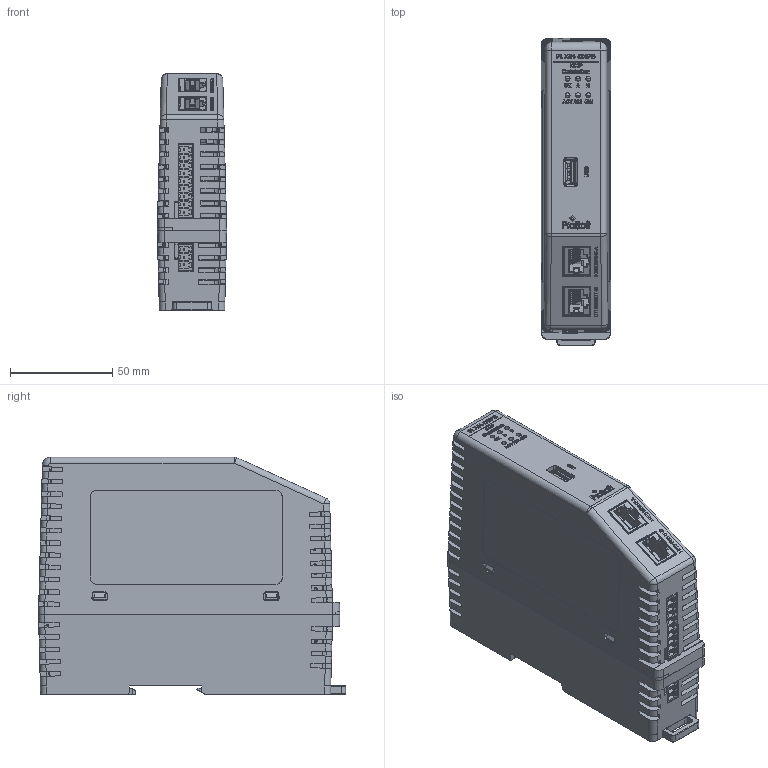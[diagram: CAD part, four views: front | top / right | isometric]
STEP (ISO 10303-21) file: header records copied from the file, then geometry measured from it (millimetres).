
FILE_DESCRIPTION (( 'STEP AP214' ), '1' );
FILE_NAME ('PLX51-DNPS.STEP', '2020-09-14T21:15:08', ( '' ), ( '' ), 'SwSTEP 2.0', 'SolidWorks 2020', '' );
FILE_SCHEMA (( 'AUTOMOTIVE_DESIGN' ));
Length unit declared in the file: millimetre
Products named in the file (16): DipSwitch; TriLED; PCD_LID_A_02_Rev4B_PLX51-DNPS; USB; M-UE27-AC54-100-REVG1-1; PCD_BASE_A_01; Socket9; Clip_PCD; Part1.SLDPRT; M-UE27-AC54-100-REVG1-4; Socket3a; JD1-0003NL1; M-UE27-AC54-100-REVG1-3; PCD_Dual_R02_Profibus_DP; M-UE27-AC54-100-REVG1-2; PLX51-DNPS
Assembly tree (17 placements, depth 3):
  PLX51-DNPS
    PCD_BASE_A_01
    PCD_LID_A_02_Rev4B_PLX51-DNPS
    PCD_Dual_R02_Profibus_DP
    TriLED  x2
    DipSwitch
    JD1-0003NL1  x2
    Socket3a
    Socket9
    Clip_PCD
    USB
      Part1.SLDPRT
      M-UE27-AC54-100-REVG1-1
      M-UE27-AC54-100-REVG1-2
      M-UE27-AC54-100-REVG1-3
      M-UE27-AC54-100-REVG1-4
Bounding box: 34.03 x 150.33 x 116.3 mm (x, y, z)
Volume: 141909.6 mm3; surface area: 146686.2 mm2
Topology: 14 solids, 20 shells, 6658 faces, 18259 edges, 11619 vertices
Faces by surface type: plane 4078, cylinder 1451, bspline 724, cone 158, torus 134, sphere 113
Entity records: 214886 total; most frequent: CARTESIAN_POINT 60412, ORIENTED_EDGE 30646, DIRECTION 25610, EDGE_CURVE 15343, VECTOR 10744, LINE 10744, VERTEX_POINT 9782, AXIS2_PLACEMENT_3D 7433
